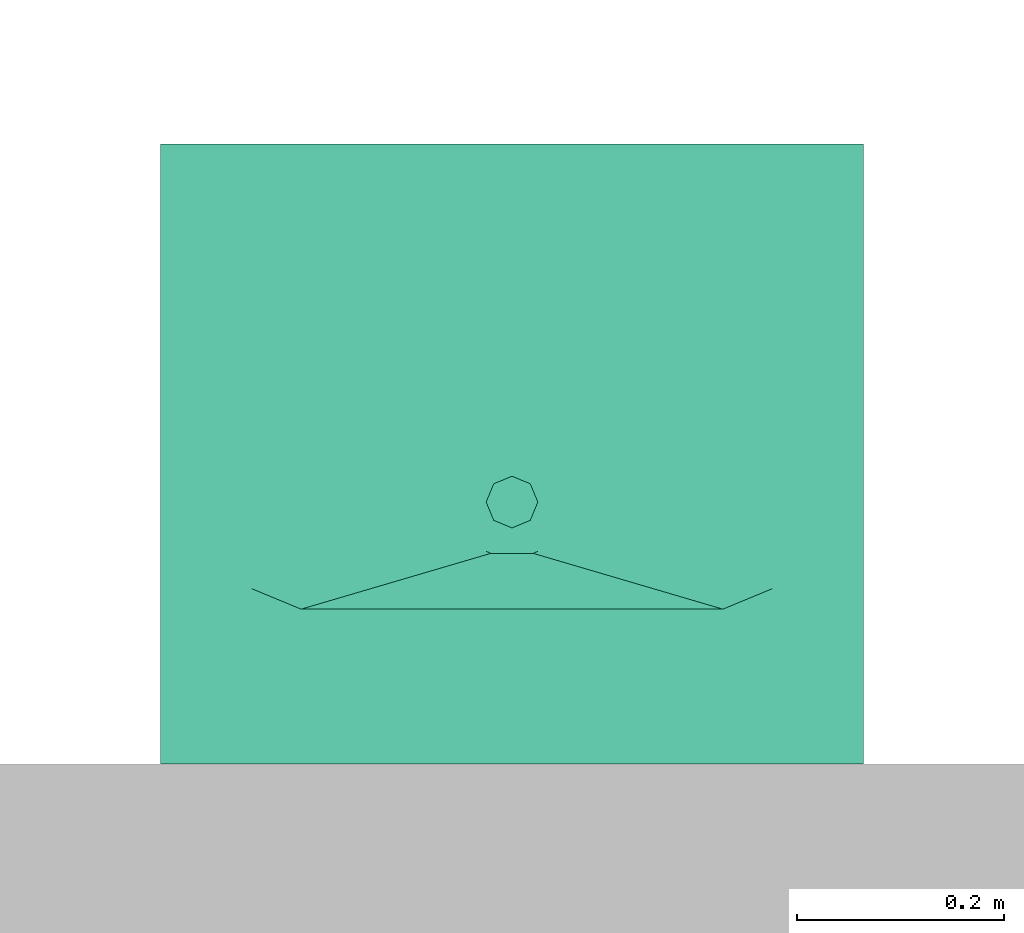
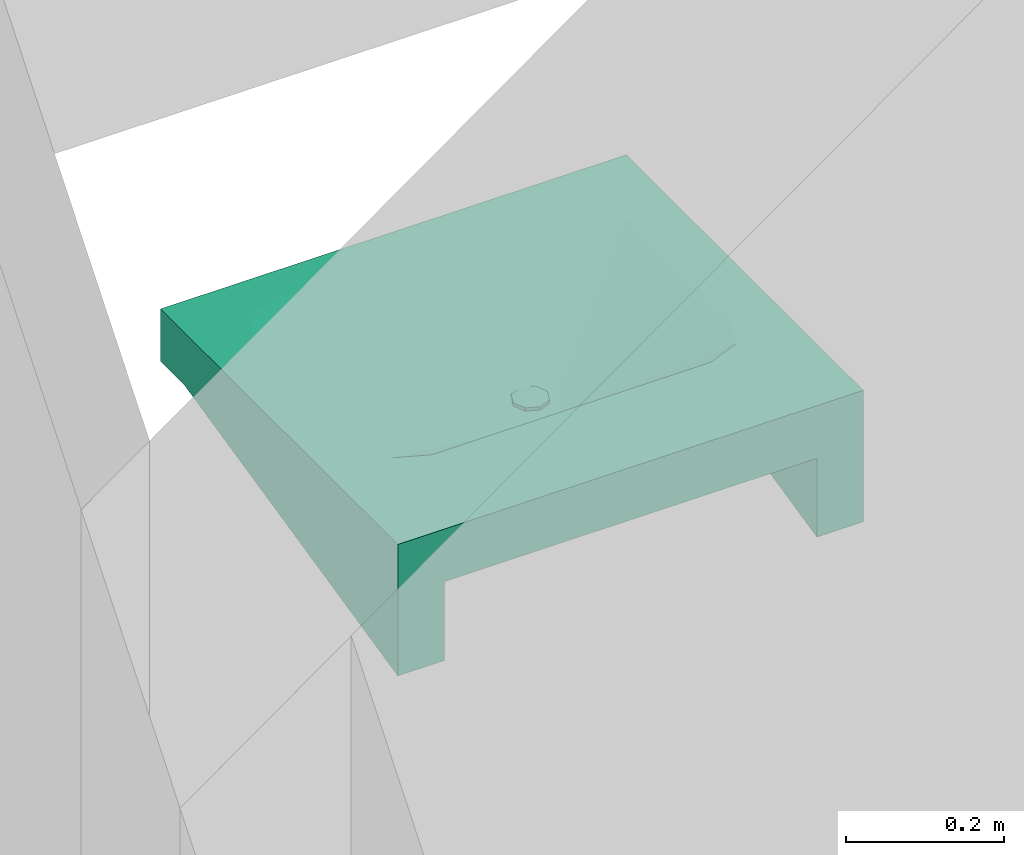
# One storey, part 44 of 48: 1 distribution flow element.
"""IFC2X3 building model written with IfcOpenShell, lengths in millimetres."""

from ifc_helpers import new_model, entity, si_unit, converted_unit, derived_unit, money_unit, direction, frame, origin_with_axes, place, context, subcontext, project, spatial, open_shell, faceted_brep, surface_model, source, transform, mapped, type_object, element, save


model = new_model("IFC2X3")

# Units and contexts
model_context = context("Model", 3, precision=0.01, world=origin_with_axes(), true_north=direction((0.0, 1.0)))
body_context = subcontext(model_context, "Body", "Model", "MODEL_VIEW")
ifc_project = project(units=[si_unit("LENGTHUNIT", "METRE", prefix="MILLI"), si_unit("AREAUNIT", "SQUARE_METRE"), si_unit("VOLUMEUNIT", "CUBIC_METRE"), converted_unit("PLANEANGLEUNIT", "DEGREE", entity("IfcPlaneAngleMeasure", 0.0174532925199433), si_unit("PLANEANGLEUNIT", "RADIAN"), dimensions=[0, 0, 0, 0, 0, 0, 0]), money_unit("USD"), converted_unit("TIMEUNIT", "Year", entity("IfcTimeMeasure", 31557600.0), si_unit("TIMEUNIT", "SECOND"), dimensions=[0, 0, 1, 0, 0, 0, 0]), si_unit("MASSUNIT", "GRAM", prefix="KILO"), si_unit("THERMODYNAMICTEMPERATUREUNIT", "DEGREE_CELSIUS"), si_unit("LUMINOUSINTENSITYUNIT", "LUMEN"), si_unit("ENERGYUNIT", "JOULE", prefix="MEGA"), derived_unit("THERMALCONDUCTANCEUNIT", [(si_unit("POWERUNIT", "WATT"), 1), (si_unit("LENGTHUNIT", "METRE"), -1), (si_unit("THERMODYNAMICTEMPERATUREUNIT", "KELVIN"), -1)]), derived_unit("SPECIFICHEATCAPACITYUNIT", [(si_unit("ENERGYUNIT", "JOULE"), 1), (si_unit("MASSUNIT", "GRAM", prefix="KILO"), -1), (si_unit("THERMODYNAMICTEMPERATUREUNIT", "KELVIN"), -1)]), derived_unit("MASSDENSITYUNIT", [(si_unit("MASSUNIT", "GRAM", prefix="KILO"), 1), (si_unit("VOLUMEUNIT", "CUBIC_METRE"), -1)])], contexts=[model_context])

# Site, building, storey
site_placement = place(None, origin_with_axes())
site = spatial("IfcSite", under=ifc_project, at=site_placement, Name="Site", CompositionType="ELEMENT")
building_placement = place(site_placement, origin_with_axes())
building = spatial("IfcBuilding", under=site, at=building_placement, Name="Building", CompositionType="ELEMENT")
storey_placement = place(building_placement, frame((0.0, 0.0, 3300.0), z_axis=(0.0, 0.0, 1.0), x_axis=(1.0, 0.0, 0.0)))
storey = spatial("IfcBuildingStorey", under=building, at=storey_placement, Name="1 ETG", CompositionType="ELEMENT", Elevation=3300.0)

# Distribution flow element
valve_type = type_object("IfcValveType", Name="Servant", PredefinedType="USERDEFINED")
shared_shape = source(origin_with_axes(), body_context, "Body", "SurfaceModel", [
    surface_model("IfcShellBasedSurfaceModel", [(-340.0, 0.0, 818.8000000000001), (-340.0, -600.0, 818.8000000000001), (-340.0, -600.0, 900.0000000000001), (-340.0, 0.0, 900.0000000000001), (-272.0, 0.0, 818.8000000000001), (272.0, 0.0, 818.8000000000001), (340.0, 0.0, 818.8000000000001), (340.0, -600.0, 818.8000000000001), (0.0, -150.0, 818.8000000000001), (-204.0, -150.0, 818.8000000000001), (-252.0832611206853, -169.9167388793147, 818.8000000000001), (-272.0, -218.0, 818.8000000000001), (-272.0, -480.0, 818.8000000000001), (-252.0832611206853, -528.0832611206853, 818.8000000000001), (-204.0, -548.0, 818.8000000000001), (204.0, -548.0, 818.8000000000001), (252.0832611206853, -528.0832611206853, 818.8000000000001), (272.0, -480.0, 818.8000000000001), (272.0, -218.0, 818.8000000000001), (252.0832611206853, -169.9167388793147, 818.8000000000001), (204.0, -150.0, 818.8000000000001), (340.0, -600.0, 900.0000000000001), (340.0, 0.0, 900.0000000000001), (272.0, 0.0, 900.0000000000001), (-272.0, 0.0, 900.0000000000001), (0.0, -150.0, 900.0000000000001), (204.0, -150.0, 900.0000000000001), (252.0832611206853, -169.9167388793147, 900.0000000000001), (272.0, -218.0, 900.0000000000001), (272.0, -480.0, 900.0000000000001), (252.0832611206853, -528.0832611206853, 900.0000000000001), (204.0, -548.0, 900.0000000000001), (-204.0, -548.0, 900.0000000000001), (-252.0832611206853, -528.0832611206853, 900.0000000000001), (-272.0, -480.0, 900.0000000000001), (-272.0, -218.0, 900.0000000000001), (-252.0832611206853, -169.9167388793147, 900.0000000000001), (-204.0, -150.0, 900.0000000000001)], [open_shell([[[0, 1, 2, 3]], [[0, 4, 5, 6, 7, 1], [8, 9, 10, 11, 12, 13, 14, 15, 16, 17, 18, 19, 20]], [[1, 7, 21, 2]], [[3, 2, 21, 22, 23, 24], [25, 26, 27, 28, 29, 30, 31, 32, 33, 34, 35, 36, 37]], [[4, 0, 3, 24]], [[5, 4, 24, 23]], [[6, 5, 23, 22]], [[7, 6, 22, 21]]])]),
    surface_model("IfcShellBasedSurfaceModel", [(340.0, 0.0, 818.8000000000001), (340.0, 0.0, 697.0000000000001), (272.0, 0.0, 697.0000000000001), (272.0, 0.0, 818.8000000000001), (340.0, -540.0, 818.8000000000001), (272.0, -540.0, 818.8000000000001)], [open_shell([[[0, 1, 2, 3]], [[0, 4, 1]], [[1, 4, 5, 2]], [[3, 2, 5]]])]),
    surface_model("IfcShellBasedSurfaceModel", [(-272.0000000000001, 0.0, 818.8000000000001), (-272.0000000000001, 0.0, 697.0000000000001), (-340.0000000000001, 0.0, 697.0000000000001), (-340.0000000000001, 0.0, 818.8000000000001), (-272.0000000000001, -540.0, 818.8000000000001), (-340.0000000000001, -540.0, 818.8000000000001)], [open_shell([[[0, 1, 2, 3]], [[0, 4, 1]], [[1, 4, 5, 2]], [[3, 2, 5]]])]),
    surface_model("IfcShellBasedSurfaceModel", [(204.0, -150.0, 900.0000000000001), (25.20832611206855, -205.9916738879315, 846.7125000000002), (20.40000000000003, -204.0, 846.7125000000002), (252.0832611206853, -169.9167388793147, 900.0000000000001), (27.20000000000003, -210.8, 846.7125000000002), (27.20000000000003, -237.0, 846.7125000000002), (25.20832611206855, -241.8083261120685, 846.7125000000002), (20.40000000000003, -243.8, 846.7125000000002), (-20.39999999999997, -243.8, 846.7125000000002), (-25.20832611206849, -241.8083261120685, 846.7125000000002), (-27.19999999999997, -237.0, 846.7125000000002), (-27.19999999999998, -210.8, 846.7125000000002), (-25.2083261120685, -205.9916738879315, 846.7125000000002), (-20.39999999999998, -204.0, 846.7125000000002), (-204.0, -150.0, 900.0000000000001), (272.0, -218.0, 900.0000000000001), (272.0000000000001, -479.9999999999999, 900.0000000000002), (252.0832611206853, -528.0832611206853, 900.0000000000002), (204.0000000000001, -548.0, 900.0000000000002), (-204.0, -548.0, 900.0000000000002), (-252.0832611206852, -528.0832611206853, 900.0000000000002), (-271.9999999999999, -480.0000000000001, 900.0000000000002), (-272.0, -218.0, 900.0000000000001), (-252.0832611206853, -169.9167388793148, 900.0000000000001)], [open_shell([[[0, 1, 2]], [[1, 0, 3]], [[2, 1, 4, 5, 6, 7, 8, 9, 10, 11, 12, 13]], [[2, 14, 0]], [[3, 4, 1]], [[15, 5, 4]], [[16, 6, 5]], [[17, 7, 6]], [[18, 8, 7]], [[19, 9, 8]], [[20, 10, 9]], [[21, 11, 10]], [[22, 12, 11]], [[23, 13, 12]], [[14, 2, 13]], [[4, 3, 15]], [[5, 15, 16]], [[6, 16, 17]], [[7, 17, 18]], [[8, 18, 19]], [[9, 19, 20]], [[10, 20, 21]], [[11, 21, 22]], [[12, 22, 23]], [[13, 23, 14]]])]),
    surface_model("IfcShellBasedSurfaceModel", [(204.0, -150.0, 818.8000000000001), (25.20832611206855, -205.9916738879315, 765.5125000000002), (20.40000000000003, -204.0, 765.5125000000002), (252.0832611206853, -169.9167388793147, 818.8000000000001), (27.20000000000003, -210.8, 765.5125000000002), (27.20000000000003, -237.0, 765.5125000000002), (25.20832611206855, -241.8083261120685, 765.5125000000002), (20.40000000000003, -243.8, 765.5125000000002), (-20.39999999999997, -243.8, 765.5125000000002), (-25.20832611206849, -241.8083261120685, 765.5125000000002), (-27.19999999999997, -237.0, 765.5125000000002), (-27.19999999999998, -210.8, 765.5125000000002), (-25.2083261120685, -205.9916738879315, 765.5125000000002), (-20.39999999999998, -204.0, 765.5125000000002), (-204.0, -150.0, 818.8000000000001), (272.0, -218.0, 818.8000000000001), (272.0000000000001, -479.9999999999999, 818.8000000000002), (252.0832611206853, -528.0832611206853, 818.8000000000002), (204.0000000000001, -548.0, 818.8000000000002), (-204.0, -548.0, 818.8000000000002), (-252.0832611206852, -528.0832611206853, 818.8000000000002), (-271.9999999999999, -480.0000000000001, 818.8000000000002), (-272.0, -218.0, 818.8000000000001), (-252.0832611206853, -169.9167388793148, 818.8000000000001)], [open_shell([[[0, 1, 2]], [[1, 0, 3]], [[2, 1, 4, 5, 6, 7, 8, 9, 10, 11, 12, 13]], [[2, 14, 0]], [[3, 4, 1]], [[15, 5, 4]], [[16, 6, 5]], [[17, 7, 6]], [[18, 8, 7]], [[19, 9, 8]], [[20, 10, 9]], [[21, 11, 10]], [[22, 12, 11]], [[23, 13, 12]], [[14, 2, 13]], [[4, 3, 15]], [[5, 15, 16]], [[6, 16, 17]], [[7, 17, 18]], [[8, 18, 19]], [[9, 19, 20]], [[10, 20, 21]], [[11, 21, 22]], [[12, 22, 23]], [[13, 23, 14]]])]),
    faceted_brep([(17.67766952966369, -271.2976695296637, 850.0000000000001), (0.0, -278.6200000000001, 850.0000000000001), (-17.67766952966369, -271.2976695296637, 850.0000000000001), (-25.00000000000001, -253.62, 850.0000000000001), (-17.67766952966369, -235.9423304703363, 850.0000000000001), (0.0, -228.62, 850.0000000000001), (17.67766952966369, -235.9423304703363, 850.0000000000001), (25.0, -253.62, 850.0000000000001), (17.67766952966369, -271.2976695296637, 855.0000000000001), (0.0, -278.6200000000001, 855.0000000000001), (-17.67766952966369, -271.2976695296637, 855.0000000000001), (-25.00000000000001, -253.62, 855.0000000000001), (-17.67766952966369, -235.9423304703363, 855.0000000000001), (0.0, -228.62, 855.0000000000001), (17.67766952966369, -235.9423304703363, 855.0000000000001), (25.0, -253.62, 855.0000000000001)], [[[0, 1, 2, 3, 4, 5, 6, 7]], [[1, 0, 8, 9]], [[2, 1, 9, 10]], [[3, 2, 10, 11]], [[4, 3, 11, 12]], [[5, 4, 12, 13]], [[6, 5, 13, 14]], [[7, 6, 14, 15]], [[0, 7, 15, 8]], [[8, 15, 14, 13, 12, 11, 10, 9]]]),
    surface_model("IfcShellBasedSurfaceModel", [(0.0, -253.62, 857.0000000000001), (0.0, -240.99809443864, 856.4975737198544), (-8.925035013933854, -244.6949649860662, 856.4975737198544), (8.925035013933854, -244.6949649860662, 856.4975737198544), (0.0, -228.62, 855.0000000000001), (-17.67766952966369, -235.9423304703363, 855.0000000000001), (-12.62190556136, -253.62, 856.4975737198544), (12.62190556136, -253.62, 856.4975737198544), (17.67766952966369, -235.9423304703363, 855.0000000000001), (-25.00000000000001, -253.62, 855.0000000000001), (-8.925035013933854, -262.5450350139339, 856.4975737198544), (8.925035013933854, -262.5450350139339, 856.4975737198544), (25.00000000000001, -253.62, 855.0000000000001), (-17.67766952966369, -271.2976695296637, 855.0000000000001), (0.0, -266.24190556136, 856.4975737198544), (17.67766952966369, -271.2976695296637, 855.0000000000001), (0.0, -278.6200000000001, 855.0000000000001)], [open_shell([[[0, 1, 2]], [[0, 3, 1]], [[2, 1, 4, 5]], [[0, 2, 6]], [[0, 7, 3]], [[1, 3, 8, 4]], [[6, 2, 5, 9]], [[0, 6, 10]], [[0, 11, 7]], [[3, 7, 12, 8]], [[10, 6, 9, 13]], [[0, 10, 14]], [[0, 14, 11]], [[7, 11, 15, 12]], [[14, 10, 13, 16]], [[11, 14, 16, 15]]])]),
])
distribution_flow_element_placement = place(storey_placement, frame((64627.33514420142, 24319.70079586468, 100.0000000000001), z_axis=(0.0, 0.0, 1.0), x_axis=(-1.0, 0.0, 0.0)))
element("IfcDistributionFlowElement", 1, at=distribution_flow_element_placement, inside=storey, type_object=valve_type, Name="FU - 001", ObjectType="Distribution Flow Element", context=body_context, shape_type="MappedRepresentation", body=[
    mapped(shared_shape, transform((0.0, 0.0, 0.0))),
])

save(model, "model.ifc")
